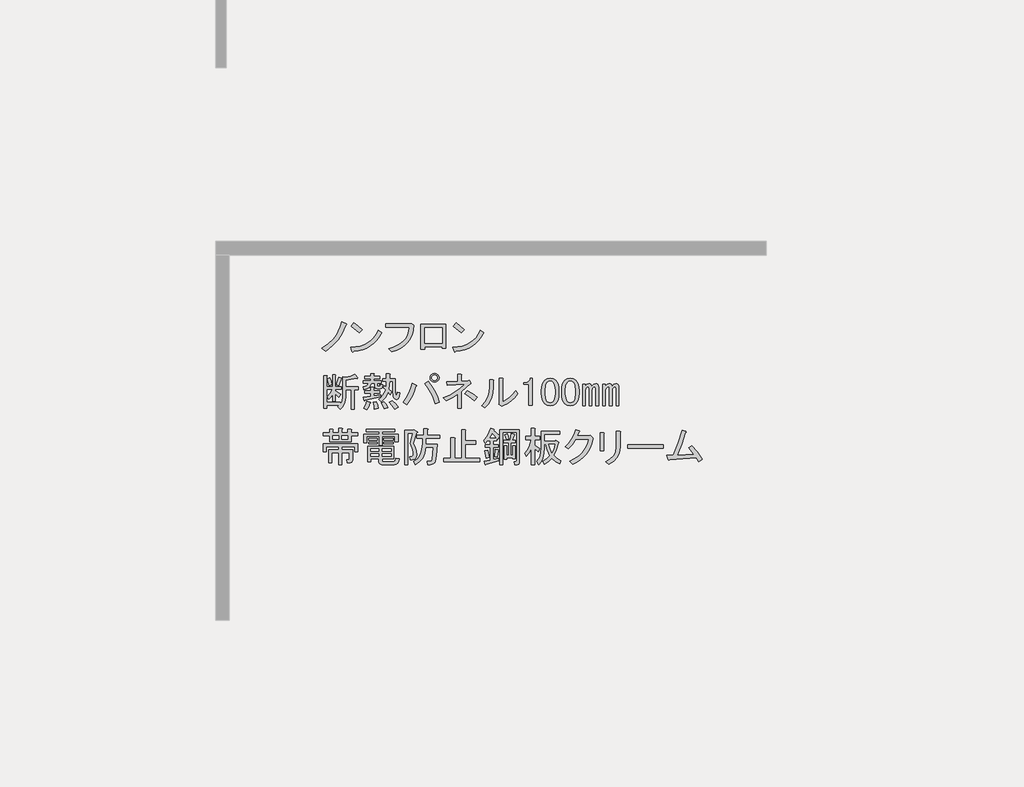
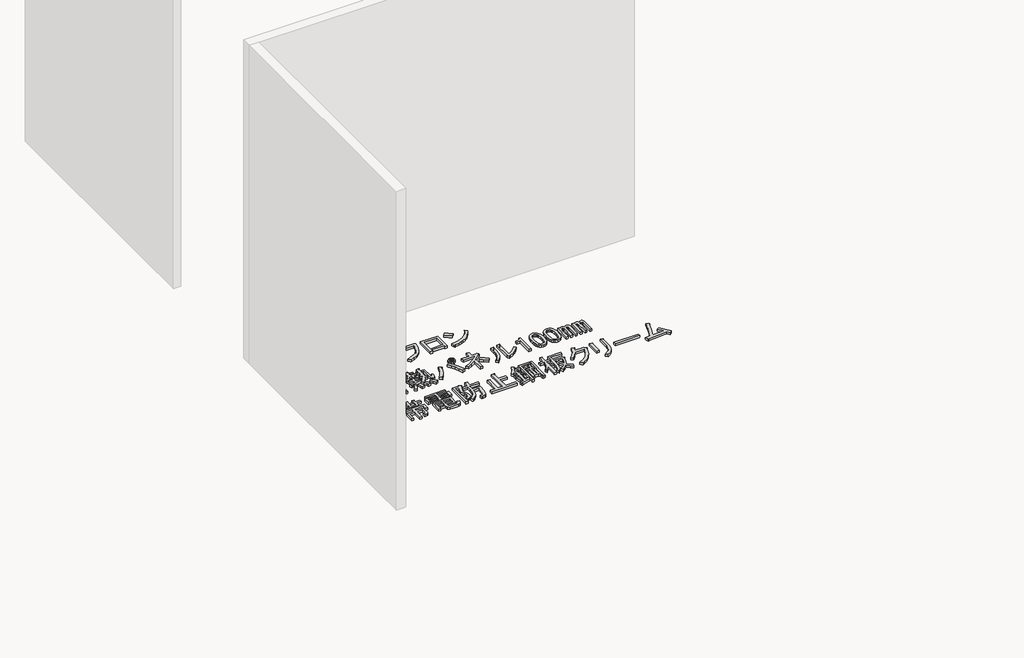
# One storey, part 21 of 117: 1 proxy.
"""IFC4 building model written with IfcOpenShell, lengths in millimetres."""

from ifc_helpers import new_model, si_unit, frame, origin, place, context, project, spatial, polyline, outline, extrude, element, save

model = new_model("IFC4")

# Units and contexts
model_context = context("Model", 3, world=origin())
ifc_project = project(units=[si_unit("LENGTHUNIT", "METRE", prefix="MILLI")], contexts=[model_context])

# Site, building, storey
site = spatial("IfcSite", under=ifc_project)
building = spatial("IfcBuilding", under=site)
storey = spatial("IfcBuildingStorey", under=building, Name="レベル 1", Elevation=500.0)

# Proxy
placement = place(None, origin())
element("IfcBuildingElementProxy", 1, Name="200㎜\u3000MS Pゴシック", ObjectType="200㎜\u3000MS Pゴシック", at=placement, inside=storey, context=model_context, shape_type="SweptSolid", body=[
    extrude(outline(polyline([(-15056.3293015, -4607.0496882), (-15081.9047498, -4666.8215225), (-15110.353844, -4712.7998566), (-15152.0217093, -4758.2034615), (-15201.1610538, -4795.560858), (-15228.7480543, -4773.7211493), (-15181.0455327, -4743.2605029), (-15141.3892195, -4704.7536481), (-15124.0036619, -4680.8305462), (-15108.6296565, -4652.7406577), (-15095.2672031, -4620.4839827), (-15083.9163019, -4584.0605212), (-15052.8809264, -4597.8540214), (-15049.7199159, -4602.4518548), (-15056.3293015, -4607.0496882)])), frame((0.0, 0.0, 500.0), z_axis=(0.0, 0.0, 1.0), x_axis=(1.0, 0.0, 0.0)), (0.0, 0.0, 1.0), 25.0),
    extrude(outline(polyline([(-14956.6022948, -4662.2236891), (-15015.2246708, -4615.0958967), (-14995.6838788, -4590.9572713), (-14968.3842429, -4610.7854279), (-14934.7625862, -4640.3839804), (-14956.6022948, -4662.2236891)])), frame((0.0, 0.0, 500.0), z_axis=(0.0, 0.0, 1.0), x_axis=(1.0, 0.0, 0.0)), (0.0, 0.0, 1.0), 25.0),
    extrude(outline(polyline([(-14794.5286672, -4662.2236891), (-14811.052131, -4691.965924), (-14830.1618761, -4717.9724192), (-14851.8579025, -4740.2431748), (-14876.1402102, -4758.7781907), (-14903.0087992, -4773.577467), (-14932.4636694, -4784.6410036), (-14964.504821, -4791.9688006), (-14999.1322539, -4795.560858), (-15004.8795456, -4803.6070664), (-15010.6268374, -4797.8597747), (-15019.8225042, -4767.9738575), (-14983.9917321, -4765.2977748), (-14951.2142088, -4758.9937141), (-14921.4899342, -4749.0616756), (-14894.8189084, -4735.5016591), (-14871.2011313, -4718.3136646), (-14850.636603, -4697.4976923), (-14833.1253234, -4673.053742), (-14818.6672926, -4644.9818138), (-14794.5286672, -4662.2236891)])), frame((0.0, 0.0, 500.0), z_axis=(0.0, 0.0, 1.0), x_axis=(1.0, 0.0, 0.0)), (0.0, 0.0, 1.0), 25.0),
    extrude(outline(polyline([(-14743.7685864, -4777.1695243), (-14709.985287, -4767.4889298), (-14680.4765359, -4755.1142922), (-14655.242333, -4740.0456116), (-14634.2826783, -4722.282888), (-14617.597572, -4701.8261214), (-14605.1870138, -4678.6753118), (-14597.0510039, -4652.8304591), (-14593.1895423, -4624.2915635), (-14765.6082951, -4624.2915635), (-14765.6082951, -4599.0034798), (-14590.8906256, -4599.0034798), (-14574.7982086, -4595.5551047), (-14562.1541668, -4607.0496882), (-14565.674383, -4643.5449909), (-14573.9361149, -4676.5919185), (-14586.9393625, -4706.1904711), (-14604.6841258, -4732.3406486), (-14627.1704048, -4755.042451), (-14654.3981995, -4774.2958784), (-14686.3675099, -4790.1009308), (-14723.078336, -4802.4576081), (-14743.7685864, -4777.1695243)])), frame((0.0, 0.0, 500.0), z_axis=(0.0, 0.0, 1.0), x_axis=(1.0, 0.0, 0.0)), (0.0, 0.0, 1.0), 25.0),
    extrude(outline(polyline([(-14329.044013, -4776.020066), (-14355.4815551, -4776.020066), (-14355.4815551, -4763.3760241), (-14483.0714321, -4763.3760241), (-14483.0714321, -4781.7673577), (-14509.5089742, -4781.7673577), (-14509.5089742, -4602.4518548), (-14329.044013, -4602.4518548), (-14329.044013, -4776.020066)]), holes=[polyline([(-14483.0714321, -4627.7399386), (-14483.0714321, -4738.0879404), (-14355.4815551, -4738.0879404), (-14355.4815551, -4627.7399386), (-14483.0714321, -4627.7399386)])]), frame((0.0, 0.0, 500.0), z_axis=(0.0, 0.0, 1.0), x_axis=(1.0, 0.0, 0.0)), (0.0, 0.0, 1.0), 25.0),
    extrude(outline(polyline([(-14052.9900951, -4662.2236891), (-14069.5135589, -4691.965924), (-14088.623304, -4717.9724192), (-14110.3193304, -4740.2431748), (-14134.6016381, -4758.7781907), (-14161.4702271, -4773.577467), (-14190.9250974, -4784.6410036), (-14222.9662489, -4791.9688006), (-14257.5936818, -4795.560858), (-14263.3409736, -4803.6070664), (-14269.0882653, -4797.8597747), (-14278.2839321, -4767.9738575), (-14242.4531601, -4765.2977748), (-14209.6756367, -4758.9937141), (-14179.9513622, -4749.0616756), (-14153.2803363, -4735.5016591), (-14129.6625593, -4718.3136646), (-14109.0980309, -4697.4976923), (-14091.5867514, -4673.053742), (-14077.1287205, -4644.9818138), (-14052.9900951, -4662.2236891)])), frame((0.0, 0.0, 500.0), z_axis=(0.0, 0.0, 1.0), x_axis=(1.0, 0.0, 0.0)), (0.0, 0.0, 1.0), 25.0),
    extrude(outline(polyline([(-14215.0637228, -4662.2236891), (-14273.6860987, -4615.0958967), (-14254.1453067, -4590.9572713), (-14226.8456709, -4610.7854279), (-14193.2240141, -4640.3839804), (-14215.0637228, -4662.2236891)])), frame((0.0, 0.0, 500.0), z_axis=(0.0, 0.0, 1.0), x_axis=(1.0, 0.0, 0.0)), (0.0, 0.0, 1.0), 25.0),
    extrude(outline(polyline([(-15122.9978859, -5039.2345221), (-15105.7560106, -4986.3594379), (-15085.0657603, -4992.1067296), (-15083.3415727, -4995.2677401), (-15087.364677, -4997.8540214), (-15104.6065523, -5046.1312722), (-15122.9978859, -5039.2345221)])), frame((0.0, 0.0, 500.0), z_axis=(0.0, 0.0, 1.0), x_axis=(1.0, 0.0, 0.0)), (0.0, 0.0, 1.0), 25.0),
    extrude(outline(polyline([(-14968.9704667, -4990.9572713), (-14970.6946542, -4995.5551047), (-14978.1661335, -4993.256188), (-15055.1798431, -5005.9002299), (-15055.1798431, -5055.326939), (-14963.2231749, -5055.326939), (-14963.2231749, -5077.1666477), (-14994.2585505, -5077.1666477), (-14994.2585505, -5217.4005666), (-15017.2477175, -5217.4005666), (-15017.2477175, -5077.1666477), (-15055.1798431, -5077.1666477), (-15055.1798431, -5126.5933568), (-15057.7661244, -5154.3958807), (-15065.5249683, -5179.1810764), (-15078.4563747, -5200.948944), (-15096.5603438, -5219.6994833), (-15113.8022191, -5200.1586914), (-15103.4570939, -5190.9630245), (-15193.1148454, -5190.9630245), (-15193.1148454, -5212.8027332), (-15216.1040124, -5212.8027332), (-15216.1040124, -4973.715396), (-15194.2643037, -4973.715396), (-15189.3791057, -4976.0143127), (-15193.1148454, -4980.6121461), (-15193.1148454, -5056.4763974), (-15150.5848863, -5056.4763974), (-15150.5848863, -4969.1175626), (-15132.1935527, -4969.1175626), (-15127.3083547, -4971.4164793), (-15131.0440943, -4976.0143127), (-15131.0440943, -5056.4763974), (-15087.364677, -5056.4763974), (-15087.364677, -5074.867731), (-15131.0440943, -5074.867731), (-15131.0440943, -5084.0633978), (-15090.813052, -5110.5009399), (-15104.6065523, -5132.3406486), (-15131.0440943, -5105.9031065), (-15131.0440943, -5158.7781907), (-15150.5848863, -5158.7781907), (-15150.5848863, -5110.5009399), (-15163.8036574, -5130.3290965), (-15178.1718868, -5146.1341488), (-15190.8159287, -5127.7428152), (-15168.97622, -5103.6041898), (-15151.7343447, -5074.867731), (-15193.1148454, -5074.867731), (-15193.1148454, -5169.1233159), (-15095.4108854, -5169.1233159), (-15095.4108854, -5182.9168161), (-15082.479479, -5158.7781907), (-15078.1690102, -5125.4438985), (-15078.1690102, -4980.6121461), (-15056.3293015, -4986.3594379), (-15020.1213634, -4978.8879586), (-14989.660717, -4965.6691875), (-14968.9704667, -4990.9572713)])), frame((0.0, 0.0, 500.0), z_axis=(0.0, 0.0, 1.0), x_axis=(1.0, 0.0, 0.0)), (0.0, 0.0, 1.0), 25.0),
    extrude(outline(polyline([(-15177.0224284, -5047.2807305), (-15189.6664703, -4996.7045631), (-15170.1256783, -4989.8078129), (-15162.3668344, -5013.9464383), (-15157.4816364, -5040.3839804), (-15177.0224284, -5047.2807305)])), frame((0.0, 0.0, 500.0), z_axis=(0.0, 0.0, 1.0), x_axis=(1.0, 0.0, 0.0)), (0.0, 0.0, 1.0), 25.0),
    extrude(outline(polyline([(-14878.1632569, -5167.9738575), (-14874.7148818, -5172.8590555), (-14880.4621736, -5176.020066), (-14890.2325696, -5201.5955143), (-14901.1524239, -5220.8489417), (-14924.141591, -5209.3543582), (-14911.4975491, -5185.790462), (-14901.1524239, -5158.7781907), (-14878.1632569, -5167.9738575)])), frame((0.0, 0.0, 500.0), z_axis=(0.0, 0.0, 1.0), x_axis=(1.0, 0.0, 0.0)), (0.0, 0.0, 1.0), 25.0),
    extrude(outline(polyline([(-14833.3343812, -5163.3760241), (-14823.2766206, -5190.67566), (-14818.3914226, -5212.8027332), (-14847.1278814, -5218.550025), (-14849.7141627, -5196.9976809), (-14857.4730066, -5166.8243992), (-14833.3343812, -5163.3760241)])), frame((0.0, 0.0, 500.0), z_axis=(0.0, 0.0, 1.0), x_axis=(1.0, 0.0, 0.0)), (0.0, 0.0, 1.0), 25.0),
    extrude(outline(polyline([(-14718.388546, -5157.6287323), (-14693.6751914, -5178.8937119), (-14674.7091286, -5203.6070664), (-14701.1466707, -5218.550025), (-14720.4000981, -5188.9514724), (-14739.0787963, -5169.1233159), (-14718.388546, -5157.6287323)])), frame((0.0, 0.0, 500.0), z_axis=(0.0, 0.0, 1.0), x_axis=(1.0, 0.0, 0.0)), (0.0, 0.0, 1.0), 25.0),
    extrude(outline(polyline([(-14777.0109219, -5216.2511083), (-14785.344495, -5191.5377537), (-14798.8506306, -5170.2727742), (-14778.1603803, -5162.2265657), (-14761.2058696, -5183.7789098), (-14749.4239215, -5207.0554415), (-14777.0109219, -5216.2511083)])), frame((0.0, 0.0, 500.0), z_axis=(0.0, 0.0, 1.0), x_axis=(1.0, 0.0, 0.0)), (0.0, 0.0, 1.0), 25.0),
    extrude(outline(polyline([(-14916.0953825, -5153.0308989), (-14918.1069346, -5157.9160969), (-14921.8426743, -5156.479274), (-14927.589966, -5132.3406486), (-14872.4159651, -5124.2944401), (-14872.4159651, -5101.3052731), (-14916.0953825, -5101.3052731), (-14916.0953825, -5082.9139395), (-14872.4159651, -5082.9139395), (-14872.4159651, -5059.9247724), (-14854.0246315, -5059.9247724), (-14849.1394335, -5062.2236891), (-14852.8751732, -5066.8215225), (-14852.8751732, -5082.9139395), (-14808.0462974, -5082.9139395), (-14808.0462974, -5101.3052731), (-14852.8751732, -5101.3052731), (-14852.8751732, -5120.8460651), (-14802.2990057, -5111.6503983), (-14802.2990057, -5127.7428152), (-14916.0953825, -5153.0308989)])), frame((0.0, 0.0, 500.0), z_axis=(0.0, 0.0, 1.0), x_axis=(1.0, 0.0, 0.0)), (0.0, 0.0, 1.0), 25.0),
    extrude(outline(polyline([(-14845.978423, -5031.1883136), (-14871.2665068, -5031.1883136), (-14875.8643402, -5048.6457123), (-14886.2094654, -5061.9363245), (-14902.3018823, -5071.0601502), (-14924.141591, -5076.0171893), (-14928.7394244, -5056.4763974), (-14903.4513406, -5047.8554597), (-14895.9798614, -5040.5276627), (-14891.9567571, -5031.1883136), (-14927.589966, -5031.1883136), (-14927.589966, -5012.79698), (-14873.5654235, -5012.79698), (-14873.5654235, -4995.5551047), (-14917.2448409, -4995.5551047), (-14917.2448409, -4977.1637711), (-14873.5654235, -4977.1637711), (-14873.5654235, -4958.7724374), (-14851.7257148, -4958.7724374), (-14846.8405168, -4961.0713541), (-14850.5762564, -4965.6691875), (-14850.5762564, -4977.1637711), (-14808.0462974, -4977.1637711), (-14808.0462974, -4995.5551047), (-14850.5762564, -4995.5551047), (-14850.5762564, -5012.79698), (-14797.7011723, -5012.79698), (-14797.7011723, -5031.1883136), (-14826.4376311, -5031.1883136), (-14826.4376311, -5043.8323555), (-14825.0008081, -5049.0049181), (-14820.6903393, -5050.7291056), (-14810.3452141, -5050.7291056), (-14806.6094745, -5047.5680951), (-14806.8968391, -5038.0850637), (-14787.3560471, -5040.3839804), (-14790.229693, -5061.9363245), (-14795.5459378, -5067.3244106), (-14803.448464, -5069.1204392), (-14827.5870894, -5069.1204392), (-14841.3805896, -5064.2352412), (-14845.978423, -5049.5796472), (-14845.978423, -5031.1883136)])), frame((0.0, 0.0, 500.0), z_axis=(0.0, 0.0, 1.0), x_axis=(1.0, 0.0, 0.0)), (0.0, 0.0, 1.0), 25.0),
    extrude(outline(polyline([(-14714.9401709, -5013.9464383), (-14736.7798796, -5013.9464383), (-14741.377713, -5071.4193559), (-14721.836921, -5089.8106896), (-14732.1820462, -5111.6503983), (-14748.2744631, -5095.5579813), (-14767.5278905, -5133.2027424), (-14797.7011723, -5165.6749408), (-14814.9430475, -5144.9846905), (-14799.8564067, -5133.0590601), (-14786.7813179, -5117.9724192), (-14775.7177813, -5099.7247679), (-14766.6657967, -5078.316106), (-14783.907672, -5063.3731475), (-14775.8614636, -5046.1312722), (-14762.0679633, -5056.4763974), (-14759.7690466, -5013.9464383), (-14787.3560471, -5013.9464383), (-14787.3560471, -4995.5551047), (-14759.7690466, -4995.5551047), (-14759.7690466, -4961.0713541), (-14737.9293379, -4961.0713541), (-14733.04414, -4963.3702708), (-14736.7798796, -4967.9681043), (-14736.7798796, -4995.5551047), (-14695.3993789, -4995.5551047), (-14695.3993789, -5092.1096063), (-14691.9510039, -5116.2482317), (-14688.7181523, -5118.2597838), (-14685.9163475, -5115.0987733), (-14681.6058787, -5093.2590646), (-14662.0650867, -5100.1558147), (-14666.591079, -5126.9525626), (-14674.421764, -5142.9731384), (-14685.5571418, -5148.2175421), (-14699.9972123, -5142.6857738), (-14706.5347567, -5135.3579768), (-14711.2044313, -5123.719711), (-14714.9401709, -5087.5117729), (-14714.9401709, -5013.9464383)])), frame((0.0, 0.0, 500.0), z_axis=(0.0, 0.0, 1.0), x_axis=(1.0, 0.0, 0.0)), (0.0, 0.0, 1.0), 25.0),
    extrude(outline(polyline([(-14456.3120417, -5016.245355), (-14429.6589762, -5052.9561812), (-14407.1726971, -5090.6727833), (-14388.8532047, -5129.3951616), (-14374.7004987, -5169.1233159), (-14405.7358742, -5179.468441), (-14421.1817208, -5136.3637528), (-14438.7828018, -5097.856898), (-14458.5391173, -5063.9478766), (-14480.4506671, -5034.6366887), (-14456.3120417, -5016.245355)])), frame((0.0, 0.0, 500.0), z_axis=(0.0, 0.0, 1.0), x_axis=(1.0, 0.0, 0.0)), (0.0, 0.0, 1.0), 25.0),
    extrude(outline(polyline([(-14543.6708765, -5042.6828971), (-14539.6477722, -5048.1428243), (-14545.9697932, -5053.0280223), (-14557.8954236, -5088.4457078), (-14572.9820644, -5122.282888), (-14591.2297158, -5154.539563), (-14612.6383776, -5185.2157328), (-14639.0759197, -5167.9738575), (-14615.8712292, -5136.5074351), (-14596.8333252, -5103.0294606), (-14581.9622078, -5067.539934), (-14571.2578769, -5030.0388553), (-14543.6708765, -5042.6828971)])), frame((0.0, 0.0, 500.0), z_axis=(0.0, 0.0, 1.0), x_axis=(1.0, 0.0, 0.0)), (0.0, 0.0, 1.0), 25.0),
    extrude(outline(polyline([(-14410.3337076, -5021.9926468), (-14422.9777495, -5019.6937301), (-14433.3228747, -5012.79698), (-14440.2196248, -5002.4518548), (-14442.5185415, -4989.8078129), (-14440.2196248, -4977.1637711), (-14433.3228747, -4966.8186459), (-14422.9777495, -4959.9218958), (-14410.3337076, -4957.6229791), (-14397.6896657, -4959.9218958), (-14387.3445406, -4966.8186459), (-14380.4477905, -4977.1637711), (-14378.1488738, -4989.8078129), (-14380.4477905, -5002.4518548), (-14387.3445406, -5012.79698), (-14397.6896657, -5019.6937301), (-14410.3337076, -5021.9926468)]), holes=[polyline([(-14410.3337076, -5010.4980633), (-14402.0001346, -5009.0612403), (-14395.390749, -5004.7507715), (-14391.0802802, -4998.141386), (-14389.6434573, -4989.8078129), (-14391.0802802, -4981.4742399), (-14395.390749, -4974.8648544), (-14402.0001346, -4970.5543855), (-14410.3337076, -4969.1175626), (-14418.6672807, -4970.5543855), (-14425.2766662, -4974.8648544), (-14429.587135, -4981.4742399), (-14431.023958, -4989.8078129), (-14429.587135, -4998.141386), (-14425.2766662, -5004.7507715), (-14418.6672807, -5009.0612403), (-14410.3337076, -5010.4980633)])]), frame((0.0, 0.0, 500.0), z_axis=(0.0, 0.0, 1.0), x_axis=(1.0, 0.0, 0.0)), (0.0, 0.0, 1.0), 25.0),
    extrude(outline(polyline([(-14120.6702029, -5155.3298156), (-14157.7402348, -5126.0186277), (-14190.7871624, -5104.7536481), (-14173.5452871, -5082.9139395), (-14134.7510677, -5106.1904711), (-14101.1294109, -5132.3406486), (-14120.6702029, -5155.3298156)])), frame((0.0, 0.0, 500.0), z_axis=(0.0, 0.0, 1.0), x_axis=(1.0, 0.0, 0.0)), (0.0, 0.0, 1.0), 25.0),
    extrude(outline(polyline([(-14166.648537, -5011.6475216), (-14159.7517869, -5009.3486049), (-14147.107745, -5026.5904802), (-14145.9582866, -5032.6251366), (-14151.7055784, -5034.6366887), (-14214.9257878, -5090.9601479), (-14214.9257878, -5211.6532749), (-14241.3633299, -5211.6532749), (-14241.3633299, -5109.3514816), (-14281.5943722, -5133.4901069), (-14326.4232479, -5155.3298156), (-14345.9640399, -5134.6395653), (-14300.4167527, -5115.1706145), (-14259.1799343, -5092.3969709), (-14222.2535848, -5066.3186345), (-14189.637704, -5036.9356054), (-14319.5264978, -5042.6828971), (-14322.9748729, -5017.3948134), (-14241.3633299, -5015.0958967), (-14241.3633299, -4963.3702708), (-14218.3741628, -4963.3702708), (-14212.3395065, -4966.8186459), (-14214.9257878, -4972.5659377), (-14214.9257878, -5013.9464383), (-14166.648537, -5011.6475216)])), frame((0.0, 0.0, 500.0), z_axis=(0.0, 0.0, 1.0), x_axis=(1.0, 0.0, 0.0)), (0.0, 0.0, 1.0), 25.0),
    extrude(outline(polyline([(-14067.703162, -5193.2619413), (-14042.5587606, -5164.0225944), (-14024.5984738, -5131.4785548), (-14013.8223018, -5095.6298225), (-14010.2302444, -5056.4763974), (-14010.2302444, -5004.7507715), (-13986.091619, -5004.7507715), (-13980.3443273, -5008.1991466), (-13983.7927023, -5013.9464383), (-13983.7927023, -5055.326939), (-13987.6002831, -5101.0897496), (-13999.0230255, -5141.82368), (-14018.0609295, -5177.5287301), (-14044.713995, -5208.2048998), (-14067.703162, -5193.2619413)])), frame((0.0, 0.0, 500.0), z_axis=(0.0, 0.0, 1.0), x_axis=(1.0, 0.0, 0.0)), (0.0, 0.0, 1.0), 25.0),
    extrude(outline(polyline([(-13913.6757429, -5162.2265657), (-13888.8905471, -5150.0135708), (-13865.1111275, -5132.9153778), (-13842.3374839, -5110.9319868), (-13820.5696163, -5084.0633978), (-13804.4771994, -5105.9031065), (-13827.753731, -5133.7056304), (-13853.9039086, -5157.3413678), (-13882.9277319, -5176.8103186), (-13914.8252012, -5192.1124829), (-13924.020868, -5196.7103163), (-13942.4122017, -5182.9168161), (-13940.113285, -5177.1695243), (-13940.113285, -4992.1067296), (-13915.9746596, -4992.1067296), (-13910.2273678, -4995.5551047), (-13913.6757429, -5001.3023965), (-13913.6757429, -5162.2265657)])), frame((0.0, 0.0, 500.0), z_axis=(0.0, 0.0, 1.0), x_axis=(1.0, 0.0, 0.0)), (0.0, 0.0, 1.0), 25.0),
    extrude(outline(polyline([(-13725.1645731, -5015.0958967), (-13717.1183647, -5004.1760423), (-13713.6699896, -4992.1067296), (-13699.8764894, -4992.1067296), (-13699.8764894, -5190.9630245), (-13726.3140315, -5190.9630245), (-13726.3140315, -5038.0850637), (-13760.797782, -5038.0850637), (-13760.797782, -5024.2915635), (-13750.4526569, -5024.2915635), (-13736.0844275, -5021.9926468), (-13725.1645731, -5015.0958967)])), frame((0.0, 0.0, 500.0), z_axis=(0.0, 0.0, 1.0), x_axis=(1.0, 0.0, 0.0)), (0.0, 0.0, 1.0), 25.0),
    extrude(outline(polyline([(-13634.3573633, -5081.7644811), (-13632.9205404, -5058.2005849), (-13628.6100716, -5038.0850637), (-13621.4259569, -5021.4179176), (-13611.3681963, -5008.1991466), (-13593.2642272, -4996.1298339), (-13571.137154, -4992.1067296), (-13549.0100807, -4996.1298339), (-13530.9061116, -5008.1991466), (-13520.8483511, -5021.4179176), (-13513.6642364, -5038.0850637), (-13509.3537675, -5058.2005849), (-13507.9169446, -5081.7644811), (-13507.9169446, -5104.7536481), (-13509.3537675, -5127.8146563), (-13513.6642364, -5147.5709718), (-13520.8483511, -5164.0225944), (-13530.9061116, -5177.1695243), (-13549.0100807, -5189.238837), (-13571.137154, -5193.2619413), (-13593.2642272, -5189.238837), (-13611.3681963, -5177.1695243), (-13621.4259569, -5164.0225944), (-13628.6100716, -5147.5709718), (-13632.9205404, -5127.8146563), (-13634.3573633, -5104.7536481), (-13634.3573633, -5081.7644811)]), holes=[polyline([(-13571.137154, -5013.9464383), (-13582.0570083, -5016.245355), (-13591.8274043, -5023.1421052), (-13598.3649487, -5032.2659308), (-13603.0346232, -5044.6944493), (-13606.7703629, -5079.4655644), (-13606.7703629, -5105.9031065), (-13602.7472586, -5140.0994925), (-13597.7183783, -5152.6716932), (-13590.6779459, -5162.2265657), (-13581.1949145, -5169.1233159), (-13571.137154, -5171.4222326), (-13560.2172996, -5169.1233159), (-13550.4469036, -5162.2265657), (-13543.9093592, -5153.1027401), (-13539.2396847, -5140.6742216), (-13535.503945, -5105.9031065), (-13535.503945, -5079.4655644), (-13539.2396847, -5044.6944493), (-13543.9093592, -5032.2659308), (-13550.4469036, -5023.1421052), (-13560.2172996, -5016.245355), (-13571.137154, -5013.9464383)])]), frame((0.0, 0.0, 500.0), z_axis=(0.0, 0.0, 1.0), x_axis=(1.0, 0.0, 0.0)), (0.0, 0.0, 1.0), 25.0),
    extrude(outline(polyline([(-13487.2266943, -5081.7644811), (-13485.7898713, -5058.2005849), (-13481.4794025, -5038.0850637), (-13474.2952878, -5021.4179176), (-13464.2375272, -5008.1991466), (-13446.1335582, -4996.1298339), (-13424.0064849, -4992.1067296), (-13401.8794116, -4996.1298339), (-13383.7754426, -5008.1991466), (-13373.717682, -5021.4179176), (-13366.5335673, -5038.0850637), (-13362.2230985, -5058.2005849), (-13360.7862755, -5081.7644811), (-13360.7862755, -5104.7536481), (-13362.2230985, -5127.8146563), (-13366.5335673, -5147.5709718), (-13373.717682, -5164.0225944), (-13383.7754426, -5177.1695243), (-13401.8794116, -5189.238837), (-13424.0064849, -5193.2619413), (-13446.1335582, -5189.238837), (-13464.2375272, -5177.1695243), (-13474.2952878, -5164.0225944), (-13481.4794025, -5147.5709718), (-13485.7898713, -5127.8146563), (-13487.2266943, -5104.7536481), (-13487.2266943, -5081.7644811)]), holes=[polyline([(-13424.0064849, -5013.9464383), (-13434.9263392, -5016.245355), (-13444.6967352, -5023.1421052), (-13451.2342796, -5032.2659308), (-13455.9039542, -5044.6944493), (-13459.6396938, -5079.4655644), (-13459.6396938, -5105.9031065), (-13455.6165896, -5140.0994925), (-13450.5877093, -5152.6716932), (-13443.5472769, -5162.2265657), (-13434.0642455, -5169.1233159), (-13424.0064849, -5171.4222326), (-13413.0866306, -5169.1233159), (-13403.3162346, -5162.2265657), (-13396.7786902, -5153.1027401), (-13392.1090156, -5140.6742216), (-13388.373276, -5105.9031065), (-13388.373276, -5079.4655644), (-13392.1090156, -5044.6944493), (-13396.7786902, -5032.2659308), (-13403.3162346, -5023.1421052), (-13413.0866306, -5016.245355), (-13424.0064849, -5013.9464383)])]), frame((0.0, 0.0, 500.0), z_axis=(0.0, 0.0, 1.0), x_axis=(1.0, 0.0, 0.0)), (0.0, 0.0, 1.0), 25.0),
    extrude(outline(polyline([(-13315.9573998, -5193.2619413), (-13335.4981918, -5193.2619413), (-13335.4981918, -5035.786147), (-13315.9573998, -5035.786147), (-13315.9573998, -5053.0280223), (-13303.8880871, -5037.5103346), (-13290.6693161, -5032.337772), (-13281.4736492, -5033.7745949), (-13274.5768991, -5038.0850637), (-13267.680149, -5051.878564), (-13254.7487426, -5037.22297), (-13241.2426069, -5032.337772), (-13232.9090339, -5033.7745949), (-13226.2996483, -5038.0850637), (-13221.1270858, -5046.7060014), (-13219.4028982, -5058.7753141), (-13219.4028982, -5193.2619413), (-13238.9436902, -5193.2619413), (-13238.9436902, -5069.1204392), (-13241.5299715, -5059.6374078), (-13249.2888154, -5056.4763974), (-13259.6339406, -5061.0742308), (-13265.6685969, -5069.6951684), (-13267.680149, -5079.4655644), (-13267.680149, -5193.2619413), (-13287.220941, -5193.2619413), (-13287.220941, -5069.1204392), (-13289.8072223, -5059.6374078), (-13297.5660662, -5056.4763974), (-13307.9111913, -5061.0742308), (-13313.9458477, -5069.6951684), (-13315.9573998, -5079.4655644), (-13315.9573998, -5193.2619413)])), frame((0.0, 0.0, 500.0), z_axis=(0.0, 0.0, 1.0), x_axis=(1.0, 0.0, 0.0)), (0.0, 0.0, 1.0), 25.0),
    extrude(outline(polyline([(-13094.1119379, -5032.337772), (-13085.7783648, -5033.7745949), (-13079.1689793, -5038.0850637), (-13073.9964167, -5046.7060014), (-13072.2722292, -5058.7753141), (-13072.2722292, -5193.2619413), (-13091.8130212, -5193.2619413), (-13091.8130212, -5069.1204392), (-13094.3993024, -5059.6374078), (-13102.1581463, -5056.4763974), (-13112.5032715, -5061.0742308), (-13118.5379278, -5069.6951684), (-13120.54948, -5079.4655644), (-13120.54948, -5193.2619413), (-13140.0902719, -5193.2619413), (-13140.0902719, -5069.1204392), (-13142.6765532, -5059.6374078), (-13150.4353971, -5056.4763974), (-13160.7805223, -5061.0742308), (-13166.8151786, -5069.6951684), (-13168.8267307, -5079.4655644), (-13168.8267307, -5193.2619413), (-13188.3675227, -5193.2619413), (-13188.3675227, -5035.786147), (-13168.8267307, -5035.786147), (-13168.8267307, -5053.0280223), (-13156.757418, -5037.5103346), (-13143.538647, -5032.337772), (-13134.3429802, -5033.7745949), (-13127.4462301, -5038.0850637), (-13120.54948, -5051.878564), (-13107.6180735, -5037.22297), (-13094.1119379, -5032.337772)])), frame((0.0, 0.0, 500.0), z_axis=(0.0, 0.0, 1.0), x_axis=(1.0, 0.0, 0.0)), (0.0, 0.0, 1.0), 25.0),
    extrude(outline(polyline([(-15172.424595, -5453.0280223), (-15172.424595, -5432.337772), (-15172.424595, -5411.6475216), (-15218.4029291, -5411.6475216), (-15218.4029291, -5389.8078129), (-15172.424595, -5389.8078129), (-15172.424595, -5364.5197292), (-15150.5848863, -5364.5197292), (-15145.6996883, -5366.8186459), (-15149.435428, -5371.4164793), (-15149.435428, -5389.8078129), (-15105.7560106, -5389.8078129), (-15105.7560106, -5357.6229791), (-15083.9163019, -5357.6229791), (-15079.0311039, -5359.9218958), (-15082.7668436, -5364.5197292), (-15082.7668436, -5389.8078129), (-15040.2368845, -5389.8078129), (-15040.2368845, -5364.5197292), (-15018.3971758, -5364.5197292), (-15013.5119779, -5366.8186459), (-15017.2477175, -5371.4164793), (-15017.2477175, -5389.8078129), (-14970.1199251, -5389.8078129), (-14970.1199251, -5411.6475216), (-15017.2477175, -5411.6475216), (-15017.2477175, -5453.0280223), (-15172.424595, -5453.0280223)]), holes=[polyline([(-15105.7560106, -5411.6475216), (-15149.435428, -5411.6475216), (-15149.435428, -5434.6366887), (-15105.7560106, -5434.6366887), (-15105.7560106, -5411.6475216)]), polyline([(-15040.2368845, -5411.6475216), (-15082.7668436, -5411.6475216), (-15082.7668436, -5434.6366887), (-15040.2368845, -5434.6366887), (-15040.2368845, -5411.6475216)])]), frame((0.0, 0.0, 500.0), z_axis=(0.0, 0.0, 1.0), x_axis=(1.0, 0.0, 0.0)), (0.0, 0.0, 1.0), 25.0),
    extrude(outline(polyline([(-14967.8210084, -5526.5933568), (-14990.8101754, -5526.5933568), (-14990.8101754, -5489.8106896), (-15082.7668436, -5489.8106896), (-15082.7668436, -5513.949315), (-15005.753134, -5513.949315), (-15005.753134, -5588.6641078), (-15010.3509674, -5602.4576081), (-15024.1444676, -5607.0554415), (-15045.9841763, -5607.0554415), (-15049.4325514, -5585.2157328), (-15033.3401344, -5585.2157328), (-15029.8917594, -5584.0662744), (-15028.742301, -5580.6178994), (-15028.742301, -5535.7890237), (-15082.7668436, -5535.7890237), (-15082.7668436, -5623.1478584), (-15105.7560106, -5623.1478584), (-15105.7560106, -5535.7890237), (-15157.4816364, -5535.7890237), (-15157.4816364, -5608.2048998), (-15180.4708035, -5608.2048998), (-15180.4708035, -5513.949315), (-15105.7560106, -5513.949315), (-15105.7560106, -5489.8106896), (-15197.7126788, -5489.8106896), (-15197.7126788, -5526.5933568), (-15220.7018458, -5526.5933568), (-15220.7018458, -5467.9709809), (-14967.8210084, -5467.9709809), (-14967.8210084, -5526.5933568)])), frame((0.0, 0.0, 500.0), z_axis=(0.0, 0.0, 1.0), x_axis=(1.0, 0.0, 0.0)), (0.0, 0.0, 1.0), 25.0),
    extrude(outline(polyline([(-14666.6629201, -5578.3189827), (-14669.4647249, -5596.9258397), (-14676.7206807, -5610.2164519), (-14688.4307877, -5618.1908193), (-14704.5950457, -5620.8489417), (-14794.2527972, -5620.8489417), (-14809.770485, -5615.9637437), (-14813.6499069, -5609.8572462), (-14814.9430475, -5601.3081497), (-14814.9430475, -5579.468441), (-14874.7148818, -5579.468441), (-14874.7148818, -5599.009233), (-14894.2556738, -5599.009233), (-14894.2556738, -5486.3623145), (-14706.8939624, -5486.3623145), (-14706.8939624, -5579.468441), (-14791.9538805, -5579.468441), (-14791.9538805, -5589.8135662), (-14789.9423284, -5596.7103163), (-14783.907672, -5599.009233), (-14708.0434208, -5599.009233), (-14701.4340353, -5597.4287278), (-14696.5488373, -5592.6872121), (-14691.9510039, -5573.7211493), (-14666.6629201, -5578.3189827)]), holes=[polyline([(-14874.7148818, -5561.0771074), (-14814.9430475, -5561.0771074), (-14814.9430475, -5541.5363154), (-14874.7148818, -5541.5363154), (-14874.7148818, -5561.0771074)]), polyline([(-14874.7148818, -5523.1449818), (-14814.9430475, -5523.1449818), (-14814.9430475, -5504.7536481), (-14874.7148818, -5504.7536481), (-14874.7148818, -5523.1449818)]), polyline([(-14791.9538805, -5561.0771074), (-14726.4347544, -5561.0771074), (-14726.4347544, -5541.5363154), (-14791.9538805, -5541.5363154), (-14791.9538805, -5561.0771074)]), polyline([(-14791.9538805, -5523.1449818), (-14726.4347544, -5523.1449818), (-14726.4347544, -5504.7536481), (-14791.9538805, -5504.7536481), (-14791.9538805, -5523.1449818)])]), frame((0.0, 0.0, 500.0), z_axis=(0.0, 0.0, 1.0), x_axis=(1.0, 0.0, 0.0)), (0.0, 0.0, 1.0), 25.0),
    extrude(outline(polyline([(-14888.5083821, -5442.6828971), (-14888.5083821, -5428.8893969), (-14825.2881727, -5428.8893969), (-14825.2881727, -5442.6828971), (-14888.5083821, -5442.6828971)])), frame((0.0, 0.0, 500.0), z_axis=(0.0, 0.0, 1.0), x_axis=(1.0, 0.0, 0.0)), (0.0, 0.0, 1.0), 25.0),
    extrude(outline(polyline([(-14825.2881727, -5470.2698976), (-14888.5083821, -5470.2698976), (-14888.5083821, -5456.4763974), (-14825.2881727, -5456.4763974), (-14825.2881727, -5470.2698976)])), frame((0.0, 0.0, 500.0), z_axis=(0.0, 0.0, 1.0), x_axis=(1.0, 0.0, 0.0)), (0.0, 0.0, 1.0), 25.0),
    extrude(outline(polyline([(-14778.1603803, -5470.2698976), (-14778.1603803, -5456.4763974), (-14711.4917959, -5456.4763974), (-14711.4917959, -5470.2698976), (-14778.1603803, -5470.2698976)])), frame((0.0, 0.0, 500.0), z_axis=(0.0, 0.0, 1.0), x_axis=(1.0, 0.0, 0.0)), (0.0, 0.0, 1.0), 25.0),
    extrude(outline(polyline([(-14778.1603803, -5442.6828971), (-14778.1603803, -5428.8893969), (-14711.4917959, -5428.8893969), (-14711.4917959, -5442.6828971), (-14778.1603803, -5442.6828971)])), frame((0.0, 0.0, 500.0), z_axis=(0.0, 0.0, 1.0), x_axis=(1.0, 0.0, 0.0)), (0.0, 0.0, 1.0), 25.0),
    extrude(outline(polyline([(-14698.847754, -5381.7616045), (-14790.8044221, -5381.7616045), (-14790.8044221, -5400.1529381), (-14675.8585869, -5400.1529381), (-14675.8585869, -5455.326939), (-14698.847754, -5455.326939), (-14698.847754, -5413.9464383), (-14790.8044221, -5413.9464383), (-14790.8044221, -5479.4655644), (-14813.7935892, -5479.4655644), (-14813.7935892, -5413.9464383), (-14902.3018823, -5413.9464383), (-14902.3018823, -5459.9247724), (-14925.2910493, -5459.9247724), (-14925.2910493, -5400.1529381), (-14813.7935892, -5400.1529381), (-14813.7935892, -5381.7616045), (-14905.7502573, -5381.7616045), (-14905.7502573, -5363.3702708), (-14698.847754, -5363.3702708), (-14698.847754, -5381.7616045)])), frame((0.0, 0.0, 500.0), z_axis=(0.0, 0.0, 1.0), x_axis=(1.0, 0.0, 0.0)), (0.0, 0.0, 1.0), 25.0),
    extrude(outline(polyline([(-14475.8528337, -5495.5579813), (-14483.0369484, -5538.7345107), (-14497.6925424, -5574.0085139), (-14519.8196156, -5601.3799909), (-14549.4181682, -5620.8489417), (-14560.9127517, -5597.8597747), (-14533.2539101, -5578.0316181), (-14513.4975947, -5549.5825239), (-14501.6438055, -5512.512492), (-14497.6925424, -5466.8215225), (-14497.6925424, -5428.8893969), (-14541.3719597, -5428.8893969), (-14541.3719597, -5407.0496882), (-14488.4968756, -5407.0496882), (-14488.4968756, -5358.7724374), (-14463.2087918, -5358.7724374), (-14457.1741355, -5362.2208125), (-14462.0593335, -5367.9681043), (-14462.0593335, -5407.0496882), (-14373.5510404, -5407.0496882), (-14373.5510404, -5428.8893969), (-14474.7033753, -5428.8893969), (-14474.7033753, -5473.7182726), (-14391.942374, -5473.7182726), (-14397.6896657, -5555.9045448), (-14405.7358742, -5600.1586914), (-14410.6210722, -5608.7077879), (-14418.3799161, -5614.8142854), (-14442.5185415, -5619.6994833), (-14460.9098751, -5619.6994833), (-14464.3582502, -5597.8597747), (-14447.1163749, -5597.8597747), (-14434.7596976, -5594.6987642), (-14427.5755829, -5585.2157328), (-14418.3799161, -5495.5579813), (-14475.8528337, -5495.5579813)])), frame((0.0, 0.0, 500.0), z_axis=(0.0, 0.0, 1.0), x_axis=(1.0, 0.0, 0.0)), (0.0, 0.0, 1.0), 25.0),
    extrude(outline(polyline([(-14542.5214181, -5520.8460651), (-14540.5817071, -5548.5049067), (-14545.1076994, -5568.2612221), (-14556.0993949, -5580.1150114), (-14573.5567936, -5584.0662744), (-14587.3502938, -5584.0662744), (-14591.9481272, -5562.2265657), (-14580.4535437, -5562.2265657), (-14572.1199707, -5560.0713313), (-14566.6600435, -5553.6056281), (-14564.0737622, -5542.8294561), (-14564.3611268, -5527.7428152), (-14571.2578769, -5500.7305439), (-14587.3502938, -5465.6720642), (-14568.9589602, -5394.4056463), (-14603.4427108, -5394.4056463), (-14603.4427108, -5623.1478584), (-14626.4318778, -5623.1478584), (-14626.4318778, -5372.5659377), (-14562.0622101, -5372.5659377), (-14559.7632934, -5367.9681043), (-14535.624668, -5380.6121461), (-14534.187845, -5384.3478858), (-14539.073043, -5386.3594379), (-14565.5105851, -5464.5226058), (-14549.9928974, -5496.9948043), (-14542.5214181, -5520.8460651)])), frame((0.0, 0.0, 500.0), z_axis=(0.0, 0.0, 1.0), x_axis=(1.0, 0.0, 0.0)), (0.0, 0.0, 1.0), 25.0),
    extrude(outline(polyline([(-14188.4882457, -5366.8186459), (-14182.4535893, -5370.267021), (-14187.3387873, -5376.0143127), (-14187.3387873, -5446.1312722), (-14111.4745361, -5446.1312722), (-14111.4745361, -5471.4193559), (-14187.3387873, -5471.4193559), (-14187.3387873, -5574.8706076), (-14081.5886189, -5574.8706076), (-14081.5886189, -5600.1586914), (-14344.8145815, -5600.1586914), (-14344.8145815, -5574.8706076), (-14291.9394974, -5574.8706076), (-14291.9394974, -5424.2915635), (-14266.6514136, -5424.2915635), (-14260.6167573, -5427.7399386), (-14265.5019553, -5433.4872303), (-14265.5019553, -5574.8706076), (-14213.7763294, -5574.8706076), (-14213.7763294, -5366.8186459), (-14188.4882457, -5366.8186459)])), frame((0.0, 0.0, 500.0), z_axis=(0.0, 0.0, 1.0), x_axis=(1.0, 0.0, 0.0)), (0.0, 0.0, 1.0), 25.0),
    extrude(outline(polyline([(-13882.732324, -5397.8540214), (-13875.5482093, -5413.0843446), (-13870.0882822, -5433.4872303), (-13887.3301574, -5439.2345221), (-13898.824741, -5402.4518548), (-13882.732324, -5397.8540214)])), frame((0.0, 0.0, 500.0), z_axis=(0.0, 0.0, 1.0), x_axis=(1.0, 0.0, 0.0)), (0.0, 0.0, 1.0), 25.0),
    extrude(outline(polyline([(-13829.8572398, -5399.0034798), (-13827.2709585, -5402.4518548), (-13833.3056149, -5405.9002299), (-13845.9496568, -5443.8323555), (-13825.2594064, -5443.8323555), (-13825.2594064, -5462.2236891), (-13856.2947819, -5462.2236891), (-13856.2947819, -5550.7319822), (-13841.3518234, -5550.7319822), (-13841.3518234, -5482.9139395), (-13825.2594064, -5482.9139395), (-13825.2594064, -5577.1695243), (-13841.3518234, -5577.1695243), (-13841.3518234, -5569.1233159), (-13887.3301574, -5569.1233159), (-13887.3301574, -5581.7673577), (-13903.4225744, -5581.7673577), (-13903.4225744, -5485.2128562), (-13887.3301574, -5485.2128562), (-13887.3301574, -5550.7319822), (-13872.3871989, -5550.7319822), (-13872.3871989, -5462.2236891), (-13908.0204078, -5462.2236891), (-13908.0204078, -5443.8323555), (-13862.0420737, -5443.8323555), (-13851.6969485, -5394.4056463), (-13829.8572398, -5399.0034798)])), frame((0.0, 0.0, 500.0), z_axis=(0.0, 0.0, 1.0), x_axis=(1.0, 0.0, 0.0)), (0.0, 0.0, 1.0), 25.0),
    extrude(outline(polyline([(-13935.6074082, -5365.6691875), (-13795.3734893, -5365.6691875), (-13795.3734893, -5605.9059831), (-13799.1092289, -5617.1132021), (-13810.3164478, -5620.8489417), (-13826.4088648, -5620.8489417), (-13831.0066982, -5599.009233), (-13819.5121147, -5599.009233), (-13816.0637396, -5597.8597747), (-13814.9142813, -5594.4113996), (-13814.9142813, -5384.0605212), (-13916.0666162, -5384.0605212), (-13916.0666162, -5623.1478584), (-13935.6074082, -5623.1478584), (-13935.6074082, -5365.6691875)])), frame((0.0, 0.0, 500.0), z_axis=(0.0, 0.0, 1.0), x_axis=(1.0, 0.0, 0.0)), (0.0, 0.0, 1.0), 25.0),
    extrude(outline(polyline([(-13950.5503668, -5434.6366887), (-13991.9308675, -5390.9572713), (-14013.7705762, -5430.0388553), (-13958.5965753, -5430.0388553), (-13958.5965753, -5448.4301889), (-13985.0341174, -5448.4301889), (-13985.0341174, -5477.1666477), (-13947.1019917, -5477.1666477), (-13947.1019917, -5495.5579813), (-13985.0341174, -5495.5579813), (-13985.0341174, -5582.9168161), (-13945.9525334, -5572.5716909), (-13943.6536167, -5592.1124829), (-14035.6102848, -5617.4005666), (-14037.9092016, -5623.1478584), (-14042.507035, -5619.6994833), (-14049.4037851, -5596.7103163), (-14004.5749093, -5587.5146495), (-14004.5749093, -5495.5579813), (-14042.507035, -5495.5579813), (-14042.507035, -5477.1666477), (-14004.5749093, -5477.1666477), (-14004.5749093, -5448.4301889), (-14026.414618, -5448.4301889), (-14041.3575766, -5466.8215225), (-14054.0016185, -5446.1312722), (-14025.8398889, -5408.4865112), (-14001.1265343, -5357.6229791), (-13979.2868256, -5363.3702708), (-13975.8384505, -5367.1060105), (-13981.5857423, -5369.1175626), (-13982.7352007, -5372.5659377), (-13937.9063249, -5410.4980633), (-13950.5503668, -5434.6366887)])), frame((0.0, 0.0, 500.0), z_axis=(0.0, 0.0, 1.0), x_axis=(1.0, 0.0, 0.0)), (0.0, 0.0, 1.0), 25.0),
    extrude(outline(polyline([(-13947.1019917, -5513.949315), (-13944.5157105, -5517.1103254), (-13948.2514501, -5519.6966067), (-13956.2976586, -5566.8243992), (-13974.6889922, -5564.5254825), (-13968.9417004, -5510.5009399), (-13947.1019917, -5513.949315)])), frame((0.0, 0.0, 500.0), z_axis=(0.0, 0.0, 1.0), x_axis=(1.0, 0.0, 0.0)), (0.0, 0.0, 1.0), 25.0),
    extrude(outline(polyline([(-14024.1157013, -5515.0987733), (-14012.6211178, -5566.8243992), (-14033.3113681, -5572.5716909), (-14044.8059517, -5520.8460651), (-14024.1157013, -5515.0987733)])), frame((0.0, 0.0, 500.0), z_axis=(0.0, 0.0, 1.0), x_axis=(1.0, 0.0, 0.0)), (0.0, 0.0, 1.0), 25.0),
    extrude(outline(polyline([(-13624.1041948, -5594.4113996), (-13595.367736, -5577.1695243), (-13573.5280273, -5555.3298156), (-13591.3446318, -5513.3745858), (-13601.1150278, -5472.5688143), (-13613.7590697, -5472.5688143), (-13613.7590697, -5496.7074397), (-13616.2016686, -5538.4471461), (-13623.5294656, -5572.8590555), (-13635.7424606, -5599.9431679), (-13652.8406536, -5619.6994833), (-13666.6341538, -5596.7103163), (-13653.5590651, -5579.3247587), (-13644.219716, -5557.0540032), (-13638.6161065, -5529.8980496), (-13636.7482367, -5497.856898), (-13636.7482367, -5377.1637711), (-13499.9626928, -5377.1637711), (-13499.9626928, -5399.0034798), (-13613.7590697, -5399.0034798), (-13613.7590697, -5450.7291056), (-13534.4464434, -5450.7291056), (-13528.6991516, -5444.9818138), (-13509.1583596, -5458.7753141), (-13507.7215367, -5462.5110537), (-13512.6067347, -5466.8215225), (-13524.963412, -5513.3745858), (-13543.6421102, -5554.1803573), (-13524.6760474, -5572.5716909), (-13493.0659427, -5590.9630245), (-13502.2616095, -5615.1016499), (-13530.1359745, -5599.009233), (-13558.5850688, -5573.7211493), (-13583.0110587, -5598.1471392), (-13614.908528, -5618.550025), (-13624.1041948, -5594.4113996)]), holes=[polyline([(-13579.2753191, -5472.5688143), (-13571.2291106, -5505.6157419), (-13558.5850688, -5533.4901069), (-13545.9410269, -5507.3399294), (-13537.8948184, -5472.5688143), (-13579.2753191, -5472.5688143)])]), frame((0.0, 0.0, 500.0), z_axis=(0.0, 0.0, 1.0), x_axis=(1.0, 0.0, 0.0)), (0.0, 0.0, 1.0), 25.0),
    extrude(outline(polyline([(-13706.8651962, -5623.1478584), (-13706.8651962, -5503.6041898), (-13724.6818006, -5537.8005758), (-13743.6478634, -5559.927649), (-13755.142447, -5539.2373987), (-13737.9005717, -5516.5355963), (-13724.1070714, -5492.1096063), (-13713.7619463, -5465.9594288), (-13706.8651962, -5438.0850637), (-13748.2456968, -5438.0850637), (-13748.2456968, -5416.245355), (-13706.8651962, -5416.245355), (-13706.8651962, -5356.4735207), (-13685.0254875, -5356.4735207), (-13680.1402895, -5358.7724374), (-13683.8760291, -5363.3702708), (-13683.8760291, -5416.245355), (-13645.9439035, -5416.245355), (-13645.9439035, -5438.0850637), (-13683.8760291, -5438.0850637), (-13683.8760291, -5478.316106), (-13645.9439035, -5504.7536481), (-13656.2890287, -5527.7428152), (-13683.8760291, -5504.7536481), (-13683.8760291, -5623.1478584), (-13706.8651962, -5623.1478584)])), frame((0.0, 0.0, 500.0), z_axis=(0.0, 0.0, 1.0), x_axis=(1.0, 0.0, 0.0)), (0.0, 0.0, 1.0), 25.0),
    extrude(outline(polyline([(-13263.1742723, -5438.0850637), (-13270.1967444, -5468.294266), (-13280.3443064, -5496.2763928), (-13293.6169583, -5522.031444), (-13310.0147001, -5545.5594196), (-13329.5375318, -5566.8603197), (-13352.1854534, -5585.9341443), (-13377.9584649, -5602.7808932), (-13406.8565663, -5617.4005666), (-13427.5468166, -5595.560858), (-13376.8269668, -5568.4049044), (-13355.669749, -5551.7018377), (-13337.314336, -5532.9153778), (-13321.7607277, -5512.0455246), (-13309.0089241, -5489.0922781), (-13299.0589252, -5464.0556384), (-13291.9107311, -5436.9356054), (-13383.8673992, -5436.9356054), (-13410.8796705, -5476.3045539), (-13439.0414001, -5507.0525648), (-13462.0305672, -5492.1096063), (-13434.8027725, -5463.9478766), (-13412.8912226, -5433.4872303), (-13396.2959177, -5400.7276673), (-13385.0168576, -5365.6691875), (-13358.5793155, -5374.8648544), (-13355.7056696, -5378.3132294), (-13360.8782322, -5381.7616045), (-13373.5222741, -5411.6475216), (-13290.7612727, -5411.6475216), (-13280.4161476, -5405.9002299), (-13259.7258972, -5426.5904802), (-13256.5648868, -5433.4872303), (-13263.1742723, -5438.0850637)])), frame((0.0, 0.0, 500.0), z_axis=(0.0, 0.0, 1.0), x_axis=(1.0, 0.0, 0.0)), (0.0, 0.0, 1.0), 25.0),
    extrude(outline(polyline([(-13063.3984107, -5494.408523), (-13068.427291, -5534.495883), (-13083.5139319, -5568.5485867), (-13108.6583333, -5596.566634), (-13143.8604953, -5618.550025), (-13166.8496624, -5599.009233), (-13133.5872113, -5579.468441), (-13109.6641094, -5555.3298156), (-13095.0803565, -5526.5933568), (-13089.8359528, -5493.2590646), (-13089.8359528, -5378.3132294), (-13065.6973274, -5378.3132294), (-13059.3753065, -5381.7616045), (-13063.3984107, -5387.5088962), (-13063.3984107, -5494.408523)])), frame((0.0, 0.0, 500.0), z_axis=(0.0, 0.0, 1.0), x_axis=(1.0, 0.0, 0.0)), (0.0, 0.0, 1.0), 25.0),
    extrude(outline(polyline([(-13181.792621, -5519.6966067), (-13208.230163, -5519.6966067), (-13208.230163, -5389.8078129), (-13182.9420793, -5389.8078129), (-13176.907423, -5392.6814588), (-13181.792621, -5399.0034798), (-13181.792621, -5519.6966067)])), frame((0.0, 0.0, 500.0), z_axis=(0.0, 0.0, 1.0), x_axis=(1.0, 0.0, 0.0)), (0.0, 0.0, 1.0), 25.0),
    extrude(outline(polyline([(-13007.0749514, -5501.3052731), (-13007.0749514, -5476.0171893), (-12750.7457389, -5476.0171893), (-12750.7457389, -5501.3052731), (-13007.0749514, -5501.3052731)])), frame((0.0, 0.0, 500.0), z_axis=(0.0, 0.0, 1.0), x_axis=(1.0, 0.0, 0.0)), (0.0, 0.0, 1.0), 25.0),
    extrude(outline(polyline([(-12723.4346085, -5554.1803573), (-12675.1573577, -5553.0308989), (-12638.662055, -5462.5110537), (-12611.9371483, -5370.267021), (-12585.4996062, -5379.4626878), (-12580.9017728, -5385.4973441), (-12587.798523, -5389.8078129), (-12613.3739713, -5470.8446268), (-12646.4208989, -5550.7319822), (-12526.8772303, -5544.9846905), (-12564.8093559, -5497.856898), (-12541.8201889, -5481.7644811), (-12503.6006987, -5528.0301798), (-12467.105396, -5581.7673577), (-12492.3934797, -5599.009233), (-12510.7848134, -5569.1233159), (-12703.8938165, -5584.0662744), (-12709.9284729, -5589.8135662), (-12714.2389417, -5584.0662744), (-12723.4346085, -5554.1803573)])), frame((0.0, 0.0, 500.0), z_axis=(0.0, 0.0, 1.0), x_axis=(1.0, 0.0, 0.0)), (0.0, 0.0, 1.0), 25.0),
])

save(model, "model.ifc")
